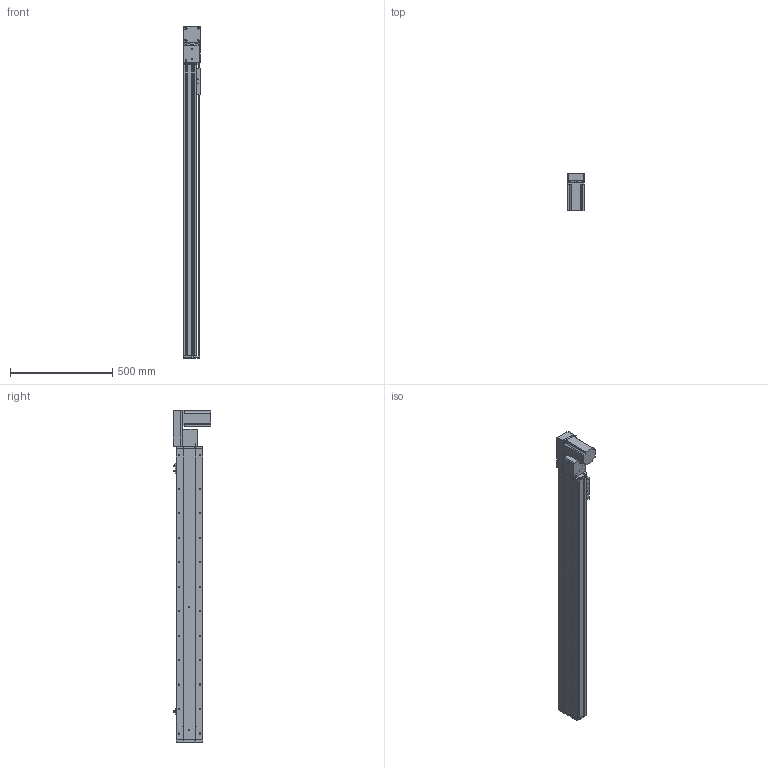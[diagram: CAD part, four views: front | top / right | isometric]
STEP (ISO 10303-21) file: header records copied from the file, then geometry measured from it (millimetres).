
FILE_DESCRIPTION (( 'STEP AP214' ), '1' );
FILE_NAME ('KSD130B-S1200-MRB-CM.STEP', '2019-09-21T07:04:45', ( '微软用户' ), ( '微软中国' ), 'SwSTEP 2.0', 'SolidWorks 2014', '' );
FILE_SCHEMA (( 'AUTOMOTIVE_DESIGN' ));
Length unit declared in the file: millimetre
Products named in the file (12): 130宽模组保护罩上下左右折-同步带; 130宽模组马达安装板连板左右折同步带; 覜茼え100遵圉猾敕; U倰嫖萇EEㄜSX672; 130宽盖板半封闭同步带-1200行程; 130宽马达安装板同步带右-改镜向_默认<按加工>; 130宽马达安装板同步带半封闭; 130宽同步带安装座半封闭; 130宽端盖同步带半封闭; 130宽底板半封闭同步带-1200行程; KSD130B-S1200-MRB-CM; 台达ECMA－C20807AS伺服电机
Assembly tree (13 placements, depth 2):
  KSD130B-S1200-MRB-CM
    130宽底板半封闭同步带-1200行程
    130宽端盖同步带半封闭
    130宽同步带安装座半封闭
    130宽马达安装板同步带半封闭
    130宽马达安装板同步带右-改镜向_默认<按加工>
    130宽盖板半封闭同步带-1200行程
    U倰嫖萇EEㄜSX672  x3
    覜茼え100遵圉猾敕
    130宽模组马达安装板连板左右折同步带
    130宽模组保护罩上下左右折-同步带
    台达ECMA－C20807AS伺服电机
Bounding box: 81 x 184.8 x 1627 mm (x, y, z)
Volume: 5528768.6 mm3; surface area: 1527065.2 mm2
Topology: 14 solids, 14 shells, 1577 faces, 4521 edges, 2881 vertices
Faces by surface type: cylinder 760, plane 630, cone 187
Entity records: 52299 total; most frequent: CARTESIAN_POINT 9798, DIRECTION 7939, ORIENTED_EDGE 7654, EDGE_CURVE 3827, AXIS2_PLACEMENT_3D 2902, VERTEX_POINT 2505, LINE 2135, VECTOR 2135
